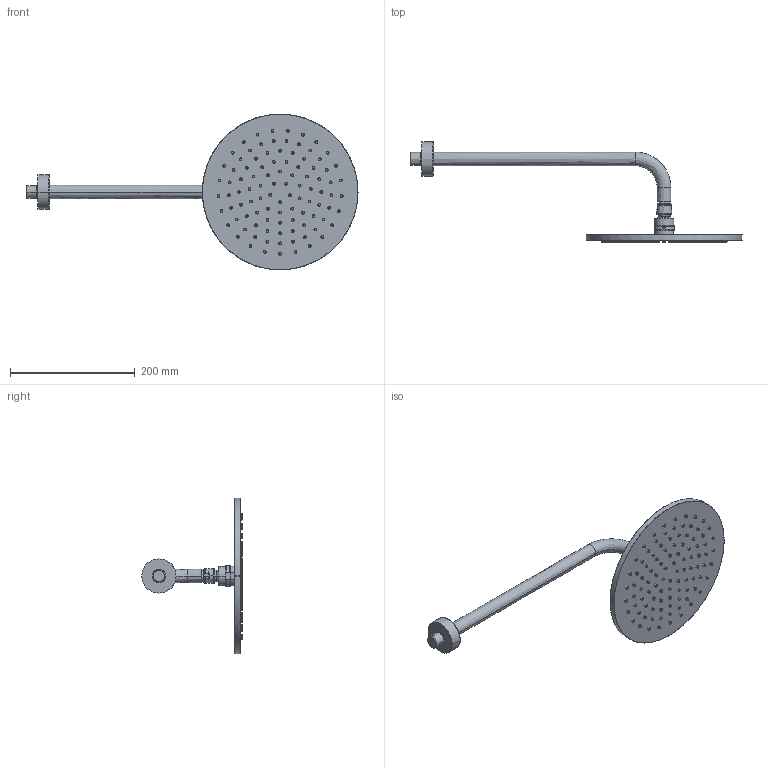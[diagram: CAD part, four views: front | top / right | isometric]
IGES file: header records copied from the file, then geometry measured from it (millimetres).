
Start section:  PTC IGES file: GPF4374800000A002_1.igs
Global section: file name: GPF4374800000A002_1.igs; native system: Creo Parametric by PTC Inc.; preprocessor: 2020281; author: plmexport; organization: Unknown; date: 20230201.152338; units: millimetre
Bounding box: 533 x 161.1 x 250 mm (x, y, z)
Surface area: 165021.7 mm2 (no closed solid volume)
Topology: 0 solids, 0 shells, 571 faces, 2074 edges, 2074 vertices
Faces by surface type: bspline 571
